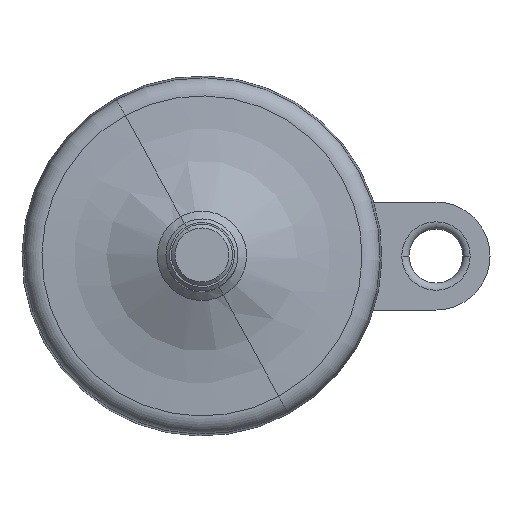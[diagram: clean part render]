
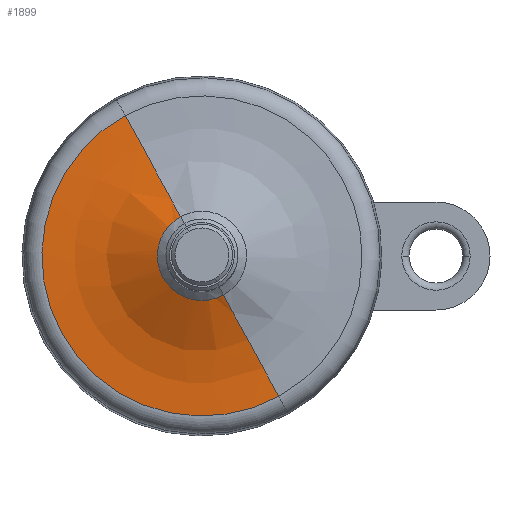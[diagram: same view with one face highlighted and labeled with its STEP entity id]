
A CAD part, top view. The second image highlights one B-rep face of the part: STEP entity #1899.
In plain terms, the highlighted face is a revolution surface.
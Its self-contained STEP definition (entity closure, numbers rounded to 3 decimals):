
#1830=CARTESIAN_POINT('Vertex',(21.315,-39.017,20.)) ;
#1833=CARTESIAN_POINT('Axis2P3D Location',(0.,0.,20.)) ;
#1837=CARTESIAN_POINT('Vertex',(-21.315,39.017,20.)) ;
#1865=CARTESIAN_POINT('Control Point',(-4.794,8.776,29.559)) ;
#1866=CARTESIAN_POINT('Control Point',(-8.498,15.555,24.83)) ;
#1867=CARTESIAN_POINT('Control Point',(-12.623,23.107,21.537)) ;
#1868=CARTESIAN_POINT('Control Point',(-16.973,31.069,19.927)) ;
#1869=CARTESIAN_POINT('Control Point',(-21.315,39.017,20.)) ;
#1870=CARTESIAN_POINT('Axis1P Location',(0.,0.,84.998)) ;
#1874=CARTESIAN_POINT('Axis2P3D Location',(21.063,-38.556,84.998)) ;
#1878=CARTESIAN_POINT('Vertex',(4.794,-8.776,29.559)) ;
#1881=CARTESIAN_POINT('Axis2P3D Location',(0.,0.,29.559)) ;
#1885=CARTESIAN_POINT('Vertex',(-4.794,8.776,29.559)) ;
#1888=CARTESIAN_POINT('Axis2P3D Location',(-21.063,38.556,84.998)) ;
#1834=DIRECTION('Axis2P3D Direction',(0.,0.,1.)) ;
#1871=DIRECTION('Axis1P Direction',(-0.,-0.,-1.)) ;
#1875=DIRECTION('Axis2P3D Direction',(-0.878,-0.479,0.)) ;
#1882=DIRECTION('Axis2P3D Direction',(0.,0.,1.)) ;
#1889=DIRECTION('Axis2P3D Direction',(0.878,0.479,-0.)) ;
#1835=AXIS2_PLACEMENT_3D('Circle Axis2P3D',#1833,#1834,$) ;
#1876=AXIS2_PLACEMENT_3D('Circle Axis2P3D',#1874,#1875,$) ;
#1883=AXIS2_PLACEMENT_3D('Circle Axis2P3D',#1881,#1882,$) ;
#1890=AXIS2_PLACEMENT_3D('Circle Axis2P3D',#1888,#1889,$) ;
#1894=ORIENTED_EDGE('',*,*,#1880,.T.) ;
#1895=ORIENTED_EDGE('',*,*,#1887,.F.) ;
#1896=ORIENTED_EDGE('',*,*,#1892,.F.) ;
#1897=ORIENTED_EDGE('',*,*,#1839,.T.) ;
#1899=ADVANCED_FACE('PartBody',(#1898),#1873,.T.) ;
#1872=AXIS1_PLACEMENT('Revolution Surface Axis1P',#1870,#1871) ;
#1864=B_SPLINE_CURVE_WITH_KNOTS('',4,(#1865,#1866,#1867,#1868,#1869),.UNSPECIFIED.,.F.,.U.,(5,5),(-137.804,-101.576),.UNSPECIFIED.) ;
#1836=CIRCLE('generated circle',#1835,44.46) ;
#1877=CIRCLE('generated circle',#1876,65.) ;
#1884=CIRCLE('generated circle',#1883,10.) ;
#1891=CIRCLE('generated circle',#1890,65.) ;
#1839=EDGE_CURVE('',#1838,#1831,#1836,.T.) ;
#1880=EDGE_CURVE('',#1831,#1879,#1877,.F.) ;
#1887=EDGE_CURVE('',#1886,#1879,#1884,.T.) ;
#1892=EDGE_CURVE('',#1838,#1886,#1891,.F.) ;
#1893=EDGE_LOOP('',(#1894,#1895,#1896,#1897)) ;
#1898=FACE_OUTER_BOUND('',#1893,.T.) ;
#1873=SURFACE_OF_REVOLUTION('homeo Torus',#1864,#1872) ;
#1831=VERTEX_POINT('',#1830) ;
#1838=VERTEX_POINT('',#1837) ;
#1879=VERTEX_POINT('',#1878) ;
#1886=VERTEX_POINT('',#1885) ;
